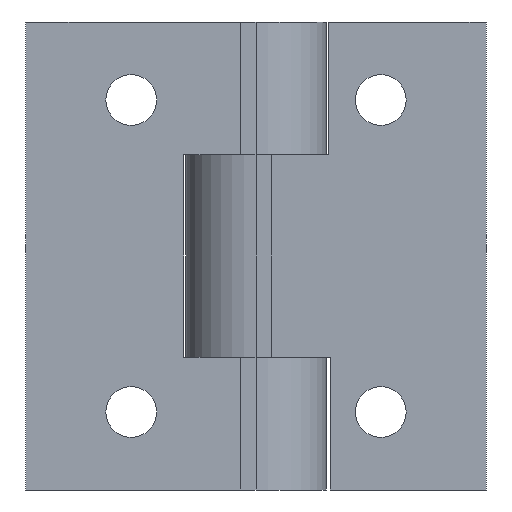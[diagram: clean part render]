
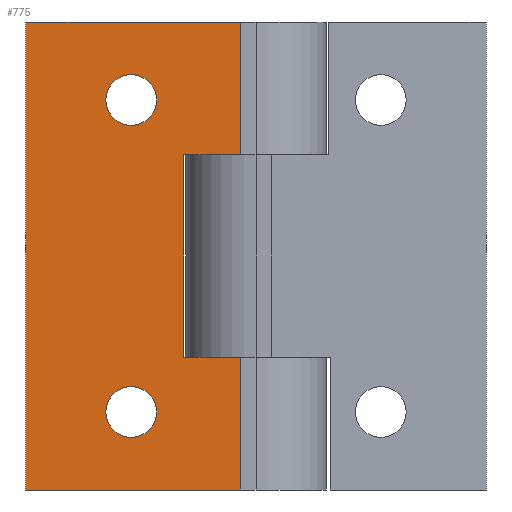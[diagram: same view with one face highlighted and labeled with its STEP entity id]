
A CAD part, front view. The second image highlights one B-rep face of the part: STEP entity #775.
In plain terms, the highlighted planar face has unit normal (0, -1, 0).
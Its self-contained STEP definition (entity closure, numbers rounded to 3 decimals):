
#3 = VERTEX_POINT ( 'NONE', #1286 ) ;
#102 = EDGE_CURVE ( 'NONE', #912, #1954, #2223, .T. ) ;
#126 = CARTESIAN_POINT ( 'NONE',  ( -2., -9.5, 30. ) ) ;
#158 = VECTOR ( 'NONE', #1478, 1000. ) ;
#191 = DIRECTION ( 'NONE',  ( 0., 0., 1. ) ) ;
#217 = VERTEX_POINT ( 'NONE', #2226 ) ;
#221 = DIRECTION ( 'NONE',  ( 0., -1., 0. ) ) ;
#270 = VECTOR ( 'NONE', #720, 1000. ) ;
#305 = CARTESIAN_POINT ( 'NONE',  ( -16., -9.5, -16.75 ) ) ;
#316 = FACE_BOUND ( 'NONE', #502, .T. ) ;
#350 = VECTOR ( 'NONE', #1102, 1000. ) ;
#366 = DIRECTION ( 'NONE',  ( 0., -1., 0. ) ) ;
#383 = CIRCLE ( 'NONE', #1541, 3.25 ) ;
#412 = CARTESIAN_POINT ( 'NONE',  ( -29.5, -9.5, 30. ) ) ;
#426 = DIRECTION ( 'NONE',  ( 1., 0., 0. ) ) ;
#449 = AXIS2_PLACEMENT_3D ( 'NONE', #1026, #482, #1747 ) ;
#468 = VERTEX_POINT ( 'NONE', #667 ) ;
#470 = FACE_BOUND ( 'NONE', #1799, .T. ) ;
#476 = DIRECTION ( 'NONE',  ( 0., 0., -1. ) ) ;
#482 = DIRECTION ( 'NONE',  ( 0., 1., 0. ) ) ;
#483 = EDGE_CURVE ( 'NONE', #468, #1850, #925, .T. ) ;
#486 = ORIENTED_EDGE ( 'NONE', *, *, #483, .F. ) ;
#502 = EDGE_LOOP ( 'NONE', ( #1159, #1231 ) ) ;
#503 = LINE ( 'NONE', #1931, #270 ) ;
#515 = CARTESIAN_POINT ( 'NONE',  ( -2., -9.5, 30. ) ) ;
#583 = CARTESIAN_POINT ( 'NONE',  ( -16., -9.5, 16.75 ) ) ;
#660 = CIRCLE ( 'NONE', #954, 3.25 ) ;
#667 = CARTESIAN_POINT ( 'NONE',  ( -9.25, -9.5, -13. ) ) ;
#682 = CIRCLE ( 'NONE', #1997, 3.25 ) ;
#685 = ORIENTED_EDGE ( 'NONE', *, *, #102, .F. ) ;
#691 = VECTOR ( 'NONE', #426, 1000. ) ;
#701 = ORIENTED_EDGE ( 'NONE', *, *, #1447, .F. ) ;
#713 = CARTESIAN_POINT ( 'NONE',  ( -29.5, -9.5, -13. ) ) ;
#720 = DIRECTION ( 'NONE',  ( 1., 0., 0. ) ) ;
#775 = ADVANCED_FACE ( 'NONE', ( #470, #316, #842 ), #1197, .F. ) ;
#836 = CARTESIAN_POINT ( 'NONE',  ( -9.25, -9.5, 30. ) ) ;
#842 = FACE_OUTER_BOUND ( 'NONE', #989, .T. ) ;
#848 = LINE ( 'NONE', #515, #1365 ) ;
#851 = CARTESIAN_POINT ( 'NONE',  ( -2., -9.5, -13. ) ) ;
#912 = VERTEX_POINT ( 'NONE', #412 ) ;
#925 = LINE ( 'NONE', #713, #1389 ) ;
#936 = DIRECTION ( 'NONE',  ( 1., 0., 0. ) ) ;
#954 = AXIS2_PLACEMENT_3D ( 'NONE', #1095, #1116, #1259 ) ;
#970 = CARTESIAN_POINT ( 'NONE',  ( -29.5, -9.5, 30. ) ) ;
#989 = EDGE_LOOP ( 'NONE', ( #1589, #1012, #685, #1091, #1682, #701, #486, #1469 ) ) ;
#998 = CARTESIAN_POINT ( 'NONE',  ( -16., -9.5, 23.25 ) ) ;
#1012 = ORIENTED_EDGE ( 'NONE', *, *, #1376, .F. ) ;
#1026 = CARTESIAN_POINT ( 'NONE',  ( -29.5, -9.5, 30. ) ) ;
#1068 = VERTEX_POINT ( 'NONE', #305 ) ;
#1070 = CARTESIAN_POINT ( 'NONE',  ( -16., -9.5, 20. ) ) ;
#1080 = CARTESIAN_POINT ( 'NONE',  ( -29.5, -9.5, 13. ) ) ;
#1091 = ORIENTED_EDGE ( 'NONE', *, *, #1800, .T. ) ;
#1095 = CARTESIAN_POINT ( 'NONE',  ( -16., -9.5, 20. ) ) ;
#1102 = DIRECTION ( 'NONE',  ( -1., 0., 0. ) ) ;
#1116 = DIRECTION ( 'NONE',  ( 0., -1., 0. ) ) ;
#1123 = VERTEX_POINT ( 'NONE', #1777 ) ;
#1155 = CARTESIAN_POINT ( 'NONE',  ( -16., -9.5, -23.25 ) ) ;
#1159 = ORIENTED_EDGE ( 'NONE', *, *, #1280, .F. ) ;
#1197 = PLANE ( 'NONE',  #449 ) ;
#1219 = DIRECTION ( 'NONE',  ( 0., 0., -1. ) ) ;
#1231 = ORIENTED_EDGE ( 'NONE', *, *, #2066, .F. ) ;
#1259 = DIRECTION ( 'NONE',  ( 0., 0., 1. ) ) ;
#1280 = EDGE_CURVE ( 'NONE', #2194, #1446, #660, .T. ) ;
#1284 = CARTESIAN_POINT ( 'NONE',  ( -16., -9.5, -20. ) ) ;
#1286 = CARTESIAN_POINT ( 'NONE',  ( -9.25, -9.5, 13. ) ) ;
#1342 = EDGE_CURVE ( 'NONE', #2131, #1068, #2086, .T. ) ;
#1348 = CARTESIAN_POINT ( 'NONE',  ( -2., -9.5, 30. ) ) ;
#1365 = VECTOR ( 'NONE', #476, 1000. ) ;
#1376 = EDGE_CURVE ( 'NONE', #1954, #1123, #2073, .T. ) ;
#1389 = VECTOR ( 'NONE', #936, 1000. ) ;
#1407 = CARTESIAN_POINT ( 'NONE',  ( -16., -9.5, -20. ) ) ;
#1445 = LINE ( 'NONE', #1080, #350 ) ;
#1446 = VERTEX_POINT ( 'NONE', #998 ) ;
#1447 = EDGE_CURVE ( 'NONE', #1850, #1631, #848, .T. ) ;
#1469 = ORIENTED_EDGE ( 'NONE', *, *, #2253, .F. ) ;
#1478 = DIRECTION ( 'NONE',  ( 0., 0., -1. ) ) ;
#1527 = LINE ( 'NONE', #836, #1906 ) ;
#1541 = AXIS2_PLACEMENT_3D ( 'NONE', #1407, #366, #1793 ) ;
#1551 = EDGE_CURVE ( 'NONE', #217, #1631, #503, .T. ) ;
#1586 = EDGE_CURVE ( 'NONE', #1068, #2131, #383, .T. ) ;
#1589 = ORIENTED_EDGE ( 'NONE', *, *, #2040, .F. ) ;
#1631 = VERTEX_POINT ( 'NONE', #2165 ) ;
#1657 = LINE ( 'NONE', #2035, #158 ) ;
#1682 = ORIENTED_EDGE ( 'NONE', *, *, #1551, .T. ) ;
#1729 = DIRECTION ( 'NONE',  ( 0., 0., -1. ) ) ;
#1747 = DIRECTION ( 'NONE',  ( 1., 0., 0. ) ) ;
#1777 = CARTESIAN_POINT ( 'NONE',  ( -2., -9.5, 13. ) ) ;
#1789 = VECTOR ( 'NONE', #1219, 1000. ) ;
#1790 = ORIENTED_EDGE ( 'NONE', *, *, #1586, .F. ) ;
#1793 = DIRECTION ( 'NONE',  ( 0., 0., 1. ) ) ;
#1799 = EDGE_LOOP ( 'NONE', ( #2250, #1790 ) ) ;
#1800 = EDGE_CURVE ( 'NONE', #912, #217, #1657, .T. ) ;
#1850 = VERTEX_POINT ( 'NONE', #851 ) ;
#1906 = VECTOR ( 'NONE', #1729, 1000. ) ;
#1931 = CARTESIAN_POINT ( 'NONE',  ( -29.5, -9.5, -30. ) ) ;
#1954 = VERTEX_POINT ( 'NONE', #126 ) ;
#1997 = AXIS2_PLACEMENT_3D ( 'NONE', #1070, #2166, #191 ) ;
#2008 = DIRECTION ( 'NONE',  ( 0., 0., 1. ) ) ;
#2035 = CARTESIAN_POINT ( 'NONE',  ( -29.5, -9.5, 30. ) ) ;
#2040 = EDGE_CURVE ( 'NONE', #1123, #3, #1445, .T. ) ;
#2066 = EDGE_CURVE ( 'NONE', #1446, #2194, #682, .T. ) ;
#2073 = LINE ( 'NONE', #1348, #1789 ) ;
#2086 = CIRCLE ( 'NONE', #2311, 3.25 ) ;
#2131 = VERTEX_POINT ( 'NONE', #1155 ) ;
#2165 = CARTESIAN_POINT ( 'NONE',  ( -2., -9.5, -30. ) ) ;
#2166 = DIRECTION ( 'NONE',  ( 0., -1., 0. ) ) ;
#2194 = VERTEX_POINT ( 'NONE', #583 ) ;
#2223 = LINE ( 'NONE', #970, #691 ) ;
#2226 = CARTESIAN_POINT ( 'NONE',  ( -29.5, -9.5, -30. ) ) ;
#2250 = ORIENTED_EDGE ( 'NONE', *, *, #1342, .F. ) ;
#2253 = EDGE_CURVE ( 'NONE', #3, #468, #1527, .T. ) ;
#2311 = AXIS2_PLACEMENT_3D ( 'NONE', #1284, #221, #2008 ) ;
